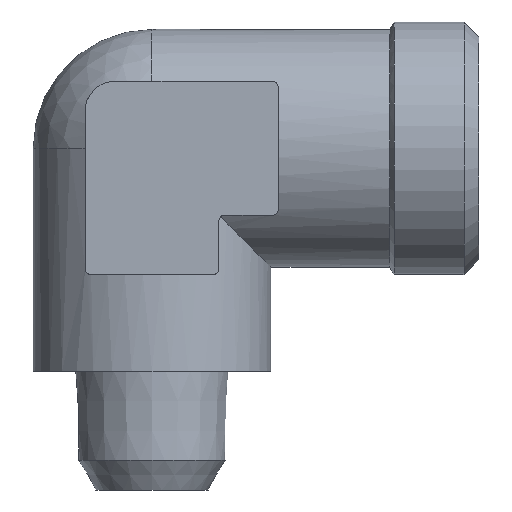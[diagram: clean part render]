
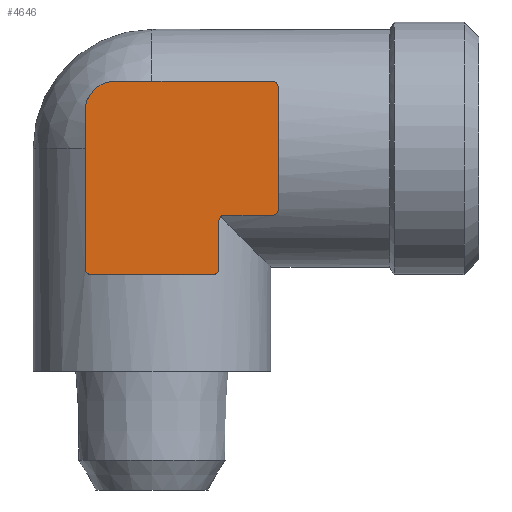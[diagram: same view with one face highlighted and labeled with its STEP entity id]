
A CAD part, front view. The second image highlights one B-rep face of the part: STEP entity #4646.
In plain terms, the highlighted planar face has unit normal (0, -1, 0) as drawn and (0, 0, 1) by its records, which use the part's own axes.
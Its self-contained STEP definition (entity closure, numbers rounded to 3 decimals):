
#1041=VECTOR('',#1724,1.);
#1044=VECTOR('',#1733,1.);
#1045=VECTOR('',#1736,1.);
#1046=VECTOR('',#1739,1.);
#1047=VECTOR('',#1742,1.);
#1048=VECTOR('',#1745,1.);
#1085=LINE('',#2882,#1041);
#1088=LINE('',#2890,#1044);
#1089=LINE('',#2894,#1045);
#1090=LINE('',#2898,#1046);
#1091=LINE('',#2902,#1047);
#1092=LINE('',#2906,#1048);
#1202=ORIENTED_EDGE('',*,*,#1483,.T.);
#1203=ORIENTED_EDGE('',*,*,#1485,.T.);
#1204=ORIENTED_EDGE('',*,*,#1486,.T.);
#1205=ORIENTED_EDGE('',*,*,#1487,.T.);
#1206=ORIENTED_EDGE('',*,*,#1488,.T.);
#1207=ORIENTED_EDGE('',*,*,#1489,.T.);
#1208=ORIENTED_EDGE('',*,*,#1490,.T.);
#1209=ORIENTED_EDGE('',*,*,#1491,.T.);
#1210=ORIENTED_EDGE('',*,*,#1492,.F.);
#1211=ORIENTED_EDGE('',*,*,#1493,.F.);
#1212=ORIENTED_EDGE('',*,*,#1494,.F.);
#1213=ORIENTED_EDGE('',*,*,#1481,.T.);
#1350=CIRCLE('',#4565,0.2);
#1351=CIRCLE('',#4567,0.2);
#1352=CIRCLE('',#4568,0.2);
#1353=CIRCLE('',#4569,0.2);
#1354=CIRCLE('',#4570,0.2);
#1355=CIRCLE('',#4571,1.);
#1403=VERTEX_POINT('',#2879);
#1404=VERTEX_POINT('',#2881);
#1405=VERTEX_POINT('',#2885);
#1406=VERTEX_POINT('',#2889);
#1407=VERTEX_POINT('',#2891);
#1408=VERTEX_POINT('',#2893);
#1409=VERTEX_POINT('',#2895);
#1410=VERTEX_POINT('',#2897);
#1411=VERTEX_POINT('',#2899);
#1412=VERTEX_POINT('',#2901);
#1413=VERTEX_POINT('',#2903);
#1414=VERTEX_POINT('',#2905);
#1481=EDGE_CURVE('',#1404,#1403,#1085,.T.);
#1483=EDGE_CURVE('',#1403,#1405,#1350,.T.);
#1485=EDGE_CURVE('',#1405,#1406,#1088,.T.);
#1486=EDGE_CURVE('',#1406,#1407,#1351,.T.);
#1487=EDGE_CURVE('',#1407,#1408,#1089,.T.);
#1488=EDGE_CURVE('',#1408,#1409,#1352,.T.);
#1489=EDGE_CURVE('',#1409,#1410,#1090,.T.);
#1490=EDGE_CURVE('',#1410,#1411,#1353,.T.);
#1491=EDGE_CURVE('',#1411,#1412,#1091,.T.);
#1492=EDGE_CURVE('',#1413,#1412,#1354,.T.);
#1493=EDGE_CURVE('',#1414,#1413,#1092,.T.);
#1494=EDGE_CURVE('',#1404,#1414,#1355,.T.);
#1557=EDGE_LOOP('',(#1202,#1203,#1204,#1205,#1206,#1207,#1208,#1209,#1210,
#1211,#1212,#1213));
#1614=FACE_BOUND('',#1557,.T.);
#1724=DIRECTION('',(0.,-5.3,0.));
#1728=DIRECTION('',(0.,0.,1.));
#1729=DIRECTION('',(-0.2,0.,0.));
#1731=DIRECTION('',(0.,0.,1.));
#1732=DIRECTION('',(0.,-1.,0.));
#1733=DIRECTION('',(4.1,0.,0.));
#1734=DIRECTION('',(0.,0.,1.));
#1735=DIRECTION('',(0.,-0.2,0.));
#1736=DIRECTION('',(0.,1.6,0.));
#1737=DIRECTION('',(0.,0.,-1.));
#1738=DIRECTION('',(-0.2,0.,0.));
#1739=DIRECTION('',(1.6,0.,0.));
#1740=DIRECTION('',(0.,0.,1.));
#1741=DIRECTION('',(0.,-0.2,0.));
#1742=DIRECTION('',(0.,4.1,0.));
#1743=DIRECTION('',(0.,0.,-1.));
#1744=DIRECTION('',(0.,0.2,0.));
#1745=DIRECTION('',(5.3,0.,0.));
#1746=DIRECTION('',(0.,0.,-1.));
#1747=DIRECTION('',(-1.,0.,0.));
#2879=CARTESIAN_POINT('',(9.,15.066,4.4));
#2881=CARTESIAN_POINT('',(9.,20.366,4.4));
#2882=CARTESIAN_POINT('',(9.,20.366,4.4));
#2885=CARTESIAN_POINT('',(9.2,14.866,4.4));
#2886=CARTESIAN_POINT('',(9.2,15.066,4.4));
#2888=CARTESIAN_POINT('',(15.5,17.066,4.4));
#2889=CARTESIAN_POINT('',(13.3,14.866,4.4));
#2890=CARTESIAN_POINT('',(9.2,14.866,4.4));
#2891=CARTESIAN_POINT('',(13.5,15.066,4.4));
#2892=CARTESIAN_POINT('',(13.3,15.066,4.4));
#2893=CARTESIAN_POINT('',(13.5,16.666,4.4));
#2894=CARTESIAN_POINT('',(13.5,15.066,4.4));
#2895=CARTESIAN_POINT('',(13.7,16.866,4.4));
#2896=CARTESIAN_POINT('',(13.7,16.666,4.4));
#2897=CARTESIAN_POINT('',(15.3,16.866,4.4));
#2898=CARTESIAN_POINT('',(13.7,16.866,4.4));
#2899=CARTESIAN_POINT('',(15.5,17.066,4.4));
#2900=CARTESIAN_POINT('',(15.3,17.066,4.4));
#2901=CARTESIAN_POINT('',(15.5,21.166,4.4));
#2902=CARTESIAN_POINT('',(15.5,17.066,4.4));
#2903=CARTESIAN_POINT('',(15.3,21.366,4.4));
#2904=CARTESIAN_POINT('',(15.3,21.166,4.4));
#2905=CARTESIAN_POINT('',(10.,21.366,4.4));
#2906=CARTESIAN_POINT('',(10.,21.366,4.4));
#2907=CARTESIAN_POINT('',(10.,20.366,4.4));
#4565=AXIS2_PLACEMENT_3D('',#2886,#1728,#1729);
#4566=AXIS2_PLACEMENT_3D('',#2888,#1731,#1732);
#4567=AXIS2_PLACEMENT_3D('',#2892,#1734,#1735);
#4568=AXIS2_PLACEMENT_3D('',#2896,#1737,#1738);
#4569=AXIS2_PLACEMENT_3D('',#2900,#1740,#1741);
#4570=AXIS2_PLACEMENT_3D('',#2904,#1743,#1744);
#4571=AXIS2_PLACEMENT_3D('',#2907,#1746,#1747);
#4622=PLANE('',#4566);
#4646=ADVANCED_FACE('',(#1614),#4622,.T.);
